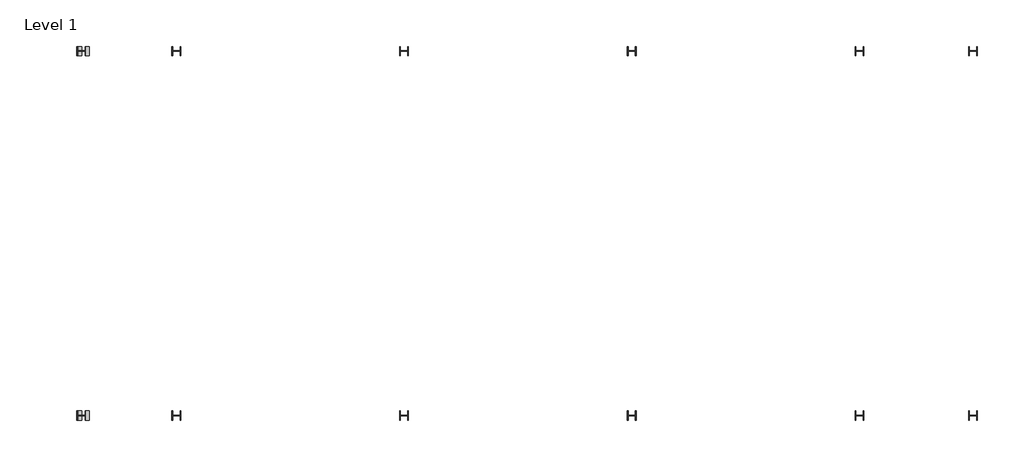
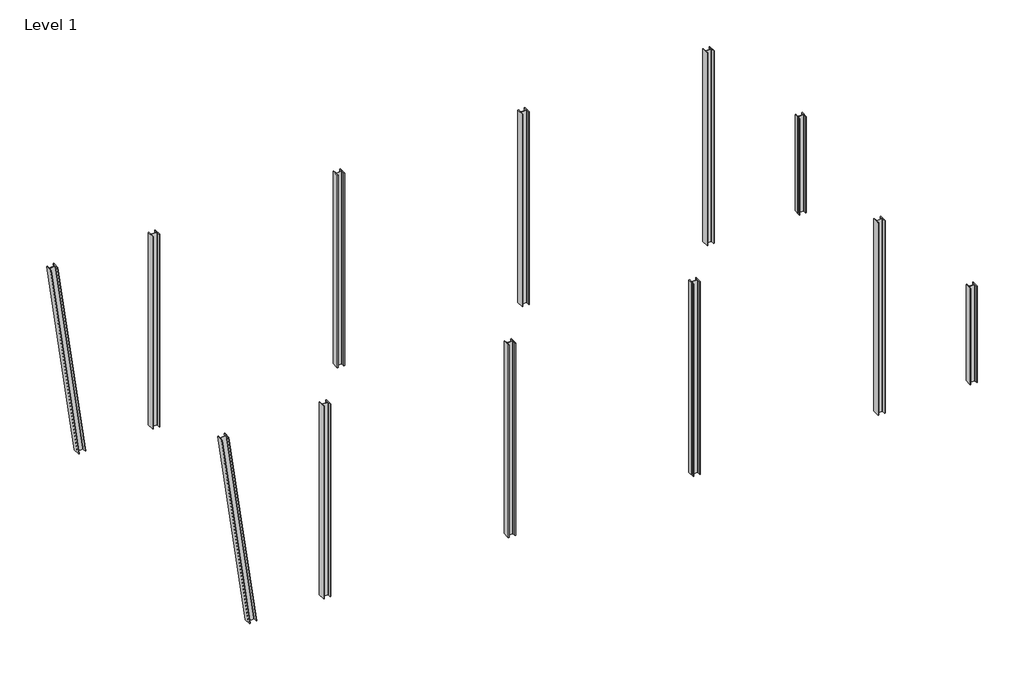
# One storey: 12 columns.
"""IFC4 building model written with IfcOpenShell, lengths in millimetres."""

from ifc_helpers import new_model, si_unit, point, frame, frame_2d, origin, origin_with_axes, place, context, project, spatial, polyline, circle_curve, trimmed, segment, composite_curve, outline, extrude, element, save

model = new_model("IFC4")

# Units and contexts
model_context = context("Model", 3, world=origin())
ifc_project = project(units=[si_unit("LENGTHUNIT", "METRE", prefix="MILLI")], contexts=[model_context])

# Site, building, storey
site = spatial("IfcSite", under=ifc_project)
building = spatial("IfcBuilding", under=site)
storey = spatial("IfcBuildingStorey", under=building, Name="Level 1", Elevation=0.0)

# Columns
placement = place(None, origin())
element("IfcColumn", 1, ObjectType="W Shapes-Column : W14X176", at=placement, inside=storey, context=model_context, shape_type="SweptSolid", body=[
    extrude(outline(composite_curve([segment(polyline([(398.7799999, 0.0), (398.78, -33.274), (225.171, -33.274)]), True, "CONTINUOUS"), segment(trimmed(circle_curve(frame_2d((225.171, -48.5140001)), 15.24), [point((225.171, -33.274))], [point((209.931, -48.514))], True, "CARTESIAN"), True, "CONTINUOUS"), segment(polyline([(209.931, -48.514), (209.9309999, -337.566)]), True, "CONTINUOUS"), segment(trimmed(circle_curve(frame_2d((225.1709999, -337.566)), 15.24), [point((209.9309999, -337.566))], [point((225.1709999, -352.8060001))], True, "CARTESIAN"), True, "CONTINUOUS"), segment(polyline([(225.1709999, -352.8060001), (398.78, -352.8060001), (398.7799999, -386.0800001), (0.0, -386.08), (-1e-07, -352.806), (173.6089999, -352.8060001)]), True, "CONTINUOUS"), segment(trimmed(circle_curve(frame_2d((173.6089999, -337.566)), 15.24), [point((173.6089999, -352.8060001))], [point((188.8489999, -337.566))], True, "CARTESIAN"), True, "CONTINUOUS"), segment(polyline([(188.8489999, -337.566), (188.849, -48.5140001)]), True, "CONTINUOUS"), segment(trimmed(circle_curve(frame_2d((173.609, -48.514)), 15.24), [point((188.849, -48.5140001))], [point((173.609, -33.274))], True, "CARTESIAN"), True, "CONTINUOUS"), segment(polyline([(173.609, -33.274), (0.0, -33.274), (0.0, 0.0), (398.7799999, 0.0)]), True, "CONTINUOUS")], self_intersect=False)), frame((2443.7315957, 1165.6085819, -26.0820551), z_axis=(-0.13511320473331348, 0.0, 0.990830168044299), x_axis=(-7.279044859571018e-06, 0.9999999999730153, -9.925970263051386e-07)), (0.0, 0.0, 1.0), 11101.8016556),
])
element("IfcColumn", 2, ObjectType="W Shapes-Column : W14X176", at=placement, inside=storey, context=model_context, shape_type="SweptSolid", body=[
    extrude(outline(composite_curve([segment(polyline([(6441.9592676, 1564.3892909), (6475.2332676, 1564.3894131), (6475.2339053, 1390.7804131)]), True, "CONTINUOUS"), segment(trimmed(circle_curve(frame_2d((6490.4739053, 1390.7804691)), 15.24), [point((6475.2339053, 1390.7804131))], [point((6490.4739613, 1375.5404691))], True, "CARTESIAN"), True, "CONTINUOUS"), segment(polyline([(6490.4739613, 1375.5404691), (6779.5259613, 1375.5415309)]), True, "CONTINUOUS"), segment(trimmed(circle_curve(frame_2d((6779.5259053, 1390.7815309)), 15.24), [point((6779.5259613, 1375.5415309))], [point((6794.7659053, 1390.7815869))], True, "CARTESIAN"), True, "CONTINUOUS"), segment(polyline([(6794.7659053, 1390.7815869), (6794.7652676, 1564.3905869), (6828.0392676, 1564.3907091), (6828.0407324, 1165.6107091), (6794.7667324, 1165.6105869), (6794.7660947, 1339.2195869)]), True, "CONTINUOUS"), segment(trimmed(circle_curve(frame_2d((6779.5260947, 1339.2195309)), 15.24), [point((6794.7660947, 1339.2195869))], [point((6779.5260387, 1354.4595309))], True, "CARTESIAN"), True, "CONTINUOUS"), segment(polyline([(6779.5260387, 1354.4595309), (6490.4740387, 1354.4584691)]), True, "CONTINUOUS"), segment(trimmed(circle_curve(frame_2d((6490.4740947, 1339.2184691)), 15.24), [point((6490.4740387, 1354.4584691))], [point((6475.2340947, 1339.2184131))], True, "CARTESIAN"), True, "CONTINUOUS"), segment(polyline([(6475.2340947, 1339.2184131), (6475.2347324, 1165.6094131), (6441.9607324, 1165.6092909), (6441.9592676, 1564.3892909)]), True, "CONTINUOUS")], self_intersect=False)), origin_with_axes(), (0.0, 0.0, 1.0), 11000.0),
])
element("IfcColumn", 3, ObjectType="W Shapes-Column : W14X176", at=placement, inside=storey, context=model_context, shape_type="SweptSolid", body=[
    extrude(outline(composite_curve([segment(polyline([(16424.1592676, -14435.6107091), (16457.4332676, -14435.6105869), (16457.4339053, -14609.2195869)]), True, "CONTINUOUS"), segment(trimmed(circle_curve(frame_2d((16472.6739053, -14609.2195309)), 15.24), [point((16457.4339053, -14609.2195869))], [point((16472.6739613, -14624.4595309))], True, "CARTESIAN"), True, "CONTINUOUS"), segment(polyline([(16472.6739613, -14624.4595309), (16761.7259613, -14624.4584691)]), True, "CONTINUOUS"), segment(trimmed(circle_curve(frame_2d((16761.7259053, -14609.2184691)), 15.24), [point((16761.7259613, -14624.4584691))], [point((16776.9659053, -14609.2184131))], True, "CARTESIAN"), True, "CONTINUOUS"), segment(polyline([(16776.9659053, -14609.2184131), (16776.9652676, -14435.6094131), (16810.2392676, -14435.6092909), (16810.2407324, -14834.3892909), (16776.9667324, -14834.3894131), (16776.9660947, -14660.7804131)]), True, "CONTINUOUS"), segment(trimmed(circle_curve(frame_2d((16761.7260947, -14660.7804691)), 15.24), [point((16776.9660947, -14660.7804131))], [point((16761.7260387, -14645.5404691))], True, "CARTESIAN"), True, "CONTINUOUS"), segment(polyline([(16761.7260387, -14645.5404691), (16472.6740387, -14645.5415309)]), True, "CONTINUOUS"), segment(trimmed(circle_curve(frame_2d((16472.6740947, -14660.7815309)), 15.24), [point((16472.6740387, -14645.5415309))], [point((16457.4340947, -14660.7815869))], True, "CARTESIAN"), True, "CONTINUOUS"), segment(polyline([(16457.4340947, -14660.7815869), (16457.4347324, -14834.3905869), (16424.1607324, -14834.3907091), (16424.1592676, -14435.6107091)]), True, "CONTINUOUS")], self_intersect=False)), origin_with_axes(), (0.0, 0.0, 1.0), 11000.0),
])
element("IfcColumn", 4, ObjectType="W Shapes-Column : W14X176", at=placement, inside=storey, context=model_context, shape_type="SweptSolid", body=[
    extrude(outline(composite_curve([segment(polyline([(16424.1592676, 1564.3892909), (16457.4332676, 1564.3894131), (16457.4339053, 1390.7804131)]), True, "CONTINUOUS"), segment(trimmed(circle_curve(frame_2d((16472.6739053, 1390.7804691)), 15.24), [point((16457.4339053, 1390.7804131))], [point((16472.6739613, 1375.5404691))], True, "CARTESIAN"), True, "CONTINUOUS"), segment(polyline([(16472.6739613, 1375.5404691), (16761.7259613, 1375.5415309)]), True, "CONTINUOUS"), segment(trimmed(circle_curve(frame_2d((16761.7259053, 1390.7815309)), 15.24), [point((16761.7259613, 1375.5415309))], [point((16776.9659053, 1390.7815869))], True, "CARTESIAN"), True, "CONTINUOUS"), segment(polyline([(16776.9659053, 1390.7815869), (16776.9652676, 1564.3905869), (16810.2392676, 1564.3907091), (16810.2407324, 1165.6107091), (16776.9667324, 1165.6105869), (16776.9660947, 1339.2195869)]), True, "CONTINUOUS"), segment(trimmed(circle_curve(frame_2d((16761.7260947, 1339.2195309)), 15.24), [point((16776.9660947, 1339.2195869))], [point((16761.7260387, 1354.4595309))], True, "CARTESIAN"), True, "CONTINUOUS"), segment(polyline([(16761.7260387, 1354.4595309), (16472.6740387, 1354.4584691)]), True, "CONTINUOUS"), segment(trimmed(circle_curve(frame_2d((16472.6740947, 1339.2184691)), 15.24), [point((16472.6740387, 1354.4584691))], [point((16457.4340947, 1339.2184131))], True, "CARTESIAN"), True, "CONTINUOUS"), segment(polyline([(16457.4340947, 1339.2184131), (16457.4347324, 1165.6094131), (16424.1607324, 1165.6092909), (16424.1592676, 1564.3892909)]), True, "CONTINUOUS")], self_intersect=False)), origin_with_axes(), (0.0, 0.0, 1.0), 11000.0),
])
element("IfcColumn", 5, ObjectType="W Shapes-Column : W14X176", at=placement, inside=storey, context=model_context, shape_type="SweptSolid", body=[
    extrude(outline(composite_curve([segment(polyline([(26406.3592676, -14435.6107091), (26439.6332676, -14435.6105869), (26439.6339053, -14609.2195869)]), True, "CONTINUOUS"), segment(trimmed(circle_curve(frame_2d((26454.8739053, -14609.2195309)), 15.24), [point((26439.6339053, -14609.2195869))], [point((26454.8739613, -14624.4595309))], True, "CARTESIAN"), True, "CONTINUOUS"), segment(polyline([(26454.8739613, -14624.4595309), (26743.9259613, -14624.4584691)]), True, "CONTINUOUS"), segment(trimmed(circle_curve(frame_2d((26743.9259053, -14609.2184691)), 15.24), [point((26743.9259613, -14624.4584691))], [point((26759.1659053, -14609.2184131))], True, "CARTESIAN"), True, "CONTINUOUS"), segment(polyline([(26759.1659053, -14609.2184131), (26759.1652676, -14435.6094131), (26792.4392676, -14435.6092909), (26792.4407324, -14834.3892909), (26759.1667324, -14834.3894131), (26759.1660947, -14660.7804131)]), True, "CONTINUOUS"), segment(trimmed(circle_curve(frame_2d((26743.9260947, -14660.7804691)), 15.24), [point((26759.1660947, -14660.7804131))], [point((26743.9260387, -14645.5404691))], True, "CARTESIAN"), True, "CONTINUOUS"), segment(polyline([(26743.9260387, -14645.5404691), (26454.8740387, -14645.5415309)]), True, "CONTINUOUS"), segment(trimmed(circle_curve(frame_2d((26454.8740947, -14660.7815309)), 15.24), [point((26454.8740387, -14645.5415309))], [point((26439.6340947, -14660.7815869))], True, "CARTESIAN"), True, "CONTINUOUS"), segment(polyline([(26439.6340947, -14660.7815869), (26439.6347324, -14834.3905869), (26406.3607324, -14834.3907091), (26406.3592676, -14435.6107091)]), True, "CONTINUOUS")], self_intersect=False)), origin_with_axes(), (0.0, 0.0, 1.0), 11000.0),
])
element("IfcColumn", 6, ObjectType="W Shapes-Column : W14X176", at=placement, inside=storey, context=model_context, shape_type="SweptSolid", body=[
    extrude(outline(composite_curve([segment(polyline([(26406.3592676, 1564.3892909), (26439.6332676, 1564.3894131), (26439.6339053, 1390.7804131)]), True, "CONTINUOUS"), segment(trimmed(circle_curve(frame_2d((26454.8739053, 1390.7804691)), 15.24), [point((26439.6339053, 1390.7804131))], [point((26454.8739613, 1375.5404691))], True, "CARTESIAN"), True, "CONTINUOUS"), segment(polyline([(26454.8739613, 1375.5404691), (26743.9259613, 1375.5415309)]), True, "CONTINUOUS"), segment(trimmed(circle_curve(frame_2d((26743.9259053, 1390.7815309)), 15.24), [point((26743.9259613, 1375.5415309))], [point((26759.1659053, 1390.7815869))], True, "CARTESIAN"), True, "CONTINUOUS"), segment(polyline([(26759.1659053, 1390.7815869), (26759.1652676, 1564.3905869), (26792.4392676, 1564.3907091), (26792.4407324, 1165.6107091), (26759.1667324, 1165.6105869), (26759.1660947, 1339.2195869)]), True, "CONTINUOUS"), segment(trimmed(circle_curve(frame_2d((26743.9260947, 1339.2195309)), 15.24), [point((26759.1660947, 1339.2195869))], [point((26743.9260387, 1354.4595309))], True, "CARTESIAN"), True, "CONTINUOUS"), segment(polyline([(26743.9260387, 1354.4595309), (26454.8740387, 1354.4584691)]), True, "CONTINUOUS"), segment(trimmed(circle_curve(frame_2d((26454.8740947, 1339.2184691)), 15.24), [point((26454.8740387, 1354.4584691))], [point((26439.6340947, 1339.2184131))], True, "CARTESIAN"), True, "CONTINUOUS"), segment(polyline([(26439.6340947, 1339.2184131), (26439.6347324, 1165.6094131), (26406.3607324, 1165.6092909), (26406.3592676, 1564.3892909)]), True, "CONTINUOUS")], self_intersect=False)), origin_with_axes(), (0.0, 0.0, 1.0), 11000.0),
])
element("IfcColumn", 7, ObjectType="W Shapes-Column : W14X176", at=placement, inside=storey, context=model_context, shape_type="SweptSolid", body=[
    extrude(outline(composite_curve([segment(polyline([(36388.5592676, -14435.6107091), (36421.8332676, -14435.6105869), (36421.8339053, -14609.2195869)]), True, "CONTINUOUS"), segment(trimmed(circle_curve(frame_2d((36437.0739053, -14609.2195309)), 15.24), [point((36421.8339053, -14609.2195869))], [point((36437.0739613, -14624.4595309))], True, "CARTESIAN"), True, "CONTINUOUS"), segment(polyline([(36437.0739613, -14624.4595309), (36726.1259613, -14624.4584691)]), True, "CONTINUOUS"), segment(trimmed(circle_curve(frame_2d((36726.1259053, -14609.2184691)), 15.24), [point((36726.1259613, -14624.4584691))], [point((36741.3659053, -14609.2184131))], True, "CARTESIAN"), True, "CONTINUOUS"), segment(polyline([(36741.3659053, -14609.2184131), (36741.3652676, -14435.6094131), (36774.6392676, -14435.6092909), (36774.6407324, -14834.3892909), (36741.3667324, -14834.3894131), (36741.3660947, -14660.7804131)]), True, "CONTINUOUS"), segment(trimmed(circle_curve(frame_2d((36726.1260947, -14660.7804691)), 15.24), [point((36741.3660947, -14660.7804131))], [point((36726.1260387, -14645.5404691))], True, "CARTESIAN"), True, "CONTINUOUS"), segment(polyline([(36726.1260387, -14645.5404691), (36437.0740387, -14645.5415309)]), True, "CONTINUOUS"), segment(trimmed(circle_curve(frame_2d((36437.0740947, -14660.7815309)), 15.24), [point((36437.0740387, -14645.5415309))], [point((36421.8340947, -14660.7815869))], True, "CARTESIAN"), True, "CONTINUOUS"), segment(polyline([(36421.8340947, -14660.7815869), (36421.8347324, -14834.3905869), (36388.5607324, -14834.3907091), (36388.5592676, -14435.6107091)]), True, "CONTINUOUS")], self_intersect=False)), origin_with_axes(), (0.0, 0.0, 1.0), 11000.0),
])
element("IfcColumn", 8, ObjectType="W Shapes-Column : W14X176", at=placement, inside=storey, context=model_context, shape_type="SweptSolid", body=[
    extrude(outline(composite_curve([segment(polyline([(36388.5592676, 1564.3892909), (36421.8332676, 1564.3894131), (36421.8339053, 1390.7804131)]), True, "CONTINUOUS"), segment(trimmed(circle_curve(frame_2d((36437.0739053, 1390.7804691)), 15.24), [point((36421.8339053, 1390.7804131))], [point((36437.0739613, 1375.5404691))], True, "CARTESIAN"), True, "CONTINUOUS"), segment(polyline([(36437.0739613, 1375.5404691), (36726.1259613, 1375.5415309)]), True, "CONTINUOUS"), segment(trimmed(circle_curve(frame_2d((36726.1259053, 1390.7815309)), 15.24), [point((36726.1259613, 1375.5415309))], [point((36741.3659053, 1390.7815869))], True, "CARTESIAN"), True, "CONTINUOUS"), segment(polyline([(36741.3659053, 1390.7815869), (36741.3652676, 1564.3905869), (36774.6392676, 1564.3907091), (36774.6407324, 1165.6107091), (36741.3667324, 1165.6105869), (36741.3660947, 1339.2195869)]), True, "CONTINUOUS"), segment(trimmed(circle_curve(frame_2d((36726.1260947, 1339.2195309)), 15.24), [point((36741.3660947, 1339.2195869))], [point((36726.1260387, 1354.4595309))], True, "CARTESIAN"), True, "CONTINUOUS"), segment(polyline([(36726.1260387, 1354.4595309), (36437.0740387, 1354.4584691)]), True, "CONTINUOUS"), segment(trimmed(circle_curve(frame_2d((36437.0740947, 1339.2184691)), 15.24), [point((36437.0740387, 1354.4584691))], [point((36421.8340947, 1339.2184131))], True, "CARTESIAN"), True, "CONTINUOUS"), segment(polyline([(36421.8340947, 1339.2184131), (36421.8347324, 1165.6094131), (36388.5607324, 1165.6092909), (36388.5592676, 1564.3892909)]), True, "CONTINUOUS")], self_intersect=False)), origin_with_axes(), (0.0, 0.0, 1.0), 11000.0),
])
element("IfcColumn", 9, ObjectType="W Shapes-Column : W14X176", at=placement, inside=storey, context=model_context, shape_type="SweptSolid", body=[
    extrude(outline(composite_curve([segment(polyline([(41370.7592676, -14435.6107091), (41404.0332676, -14435.6105869), (41404.0339053, -14609.2195869)]), True, "CONTINUOUS"), segment(trimmed(circle_curve(frame_2d((41419.2739053, -14609.2195309)), 15.24), [point((41404.0339053, -14609.2195869))], [point((41419.2739613, -14624.4595309))], True, "CARTESIAN"), True, "CONTINUOUS"), segment(polyline([(41419.2739613, -14624.4595309), (41708.3259613, -14624.4584691)]), True, "CONTINUOUS"), segment(trimmed(circle_curve(frame_2d((41708.3259053, -14609.2184691)), 15.24), [point((41708.3259613, -14624.4584691))], [point((41723.5659053, -14609.2184131))], True, "CARTESIAN"), True, "CONTINUOUS"), segment(polyline([(41723.5659053, -14609.2184131), (41723.5652676, -14435.6094131), (41756.8392676, -14435.6092909), (41756.8407324, -14834.3892909), (41723.5667324, -14834.3894131), (41723.5660947, -14660.7804131)]), True, "CONTINUOUS"), segment(trimmed(circle_curve(frame_2d((41708.3260947, -14660.7804691)), 15.24), [point((41723.5660947, -14660.7804131))], [point((41708.3260387, -14645.5404691))], True, "CARTESIAN"), True, "CONTINUOUS"), segment(polyline([(41708.3260387, -14645.5404691), (41419.2740387, -14645.5415309)]), True, "CONTINUOUS"), segment(trimmed(circle_curve(frame_2d((41419.2740947, -14660.7815309)), 15.24), [point((41419.2740387, -14645.5415309))], [point((41404.0340947, -14660.7815869))], True, "CARTESIAN"), True, "CONTINUOUS"), segment(polyline([(41404.0340947, -14660.7815869), (41404.0347324, -14834.3905869), (41370.7607324, -14834.3907091), (41370.7592676, -14435.6107091)]), True, "CONTINUOUS")], self_intersect=False)), origin_with_axes(), (0.0, 0.0, 1.0), 5500.0),
])
element("IfcColumn", 10, ObjectType="W Shapes-Column : W14X176", at=placement, inside=storey, context=model_context, shape_type="SweptSolid", body=[
    extrude(outline(composite_curve([segment(polyline([(41370.7592676, 1564.3892909), (41404.0332676, 1564.3894131), (41404.0339053, 1390.7804131)]), True, "CONTINUOUS"), segment(trimmed(circle_curve(frame_2d((41419.2739053, 1390.7804691)), 15.24), [point((41404.0339053, 1390.7804131))], [point((41419.2739613, 1375.5404691))], True, "CARTESIAN"), True, "CONTINUOUS"), segment(polyline([(41419.2739613, 1375.5404691), (41708.3259613, 1375.5415309)]), True, "CONTINUOUS"), segment(trimmed(circle_curve(frame_2d((41708.3259053, 1390.7815309)), 15.24), [point((41708.3259613, 1375.5415309))], [point((41723.5659053, 1390.7815869))], True, "CARTESIAN"), True, "CONTINUOUS"), segment(polyline([(41723.5659053, 1390.7815869), (41723.5652676, 1564.3905869), (41756.8392676, 1564.3907091), (41756.8407324, 1165.6107091), (41723.5667324, 1165.6105869), (41723.5660947, 1339.2195869)]), True, "CONTINUOUS"), segment(trimmed(circle_curve(frame_2d((41708.3260947, 1339.2195309)), 15.24), [point((41723.5660947, 1339.2195869))], [point((41708.3260387, 1354.4595309))], True, "CARTESIAN"), True, "CONTINUOUS"), segment(polyline([(41708.3260387, 1354.4595309), (41419.2740387, 1354.4584691)]), True, "CONTINUOUS"), segment(trimmed(circle_curve(frame_2d((41419.2740947, 1339.2184691)), 15.24), [point((41419.2740387, 1354.4584691))], [point((41404.0340947, 1339.2184131))], True, "CARTESIAN"), True, "CONTINUOUS"), segment(polyline([(41404.0340947, 1339.2184131), (41404.0347324, 1165.6094131), (41370.7607324, 1165.6092909), (41370.7592676, 1564.3892909)]), True, "CONTINUOUS")], self_intersect=False)), origin_with_axes(), (0.0, 0.0, 1.0), 5500.0),
])
element("IfcColumn", 11, ObjectType="W Shapes-Column : W14X176", at=placement, inside=storey, context=model_context, shape_type="SweptSolid", body=[
    extrude(outline(composite_curve([segment(polyline([(398.7799999, 0.0), (398.78, -33.274), (225.171, -33.274)]), True, "CONTINUOUS"), segment(trimmed(circle_curve(frame_2d((225.171, -48.5140001)), 15.24), [point((225.171, -33.274))], [point((209.931, -48.514))], True, "CARTESIAN"), True, "CONTINUOUS"), segment(polyline([(209.931, -48.514), (209.9309999, -337.566)]), True, "CONTINUOUS"), segment(trimmed(circle_curve(frame_2d((225.1709999, -337.566)), 15.24), [point((209.9309999, -337.566))], [point((225.1709999, -352.8060001))], True, "CARTESIAN"), True, "CONTINUOUS"), segment(polyline([(225.1709999, -352.8060001), (398.78, -352.8060001), (398.7799999, -386.0800001), (0.0, -386.08), (-1e-07, -352.806), (173.6089999, -352.8060001)]), True, "CONTINUOUS"), segment(trimmed(circle_curve(frame_2d((173.6089999, -337.566)), 15.24), [point((173.6089999, -352.8060001))], [point((188.8489999, -337.566))], True, "CARTESIAN"), True, "CONTINUOUS"), segment(polyline([(188.8489999, -337.566), (188.849, -48.5140001)]), True, "CONTINUOUS"), segment(trimmed(circle_curve(frame_2d((173.609, -48.514)), 15.24), [point((188.849, -48.5140001))], [point((173.609, -33.274))], True, "CARTESIAN"), True, "CONTINUOUS"), segment(polyline([(173.609, -33.274), (0.0, -33.274), (0.0, 0.0), (398.7799999, 0.0)]), True, "CONTINUOUS")], self_intersect=False)), frame((2443.7315957, -14834.3914181, -26.0820551), z_axis=(-0.13511320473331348, 0.0, 0.990830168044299), x_axis=(-7.279044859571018e-06, 0.9999999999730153, -9.925970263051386e-07)), (0.0, 0.0, 1.0), 11101.8016556),
])
element("IfcColumn", 12, ObjectType="W Shapes-Column : W14X176", at=placement, inside=storey, context=model_context, shape_type="SweptSolid", body=[
    extrude(outline(composite_curve([segment(polyline([(6441.9592676, -14435.6107091), (6475.2332676, -14435.6105869), (6475.2339053, -14609.2195869)]), True, "CONTINUOUS"), segment(trimmed(circle_curve(frame_2d((6490.4739053, -14609.2195309)), 15.24), [point((6475.2339053, -14609.2195869))], [point((6490.4739613, -14624.4595309))], True, "CARTESIAN"), True, "CONTINUOUS"), segment(polyline([(6490.4739613, -14624.4595309), (6779.5259613, -14624.4584691)]), True, "CONTINUOUS"), segment(trimmed(circle_curve(frame_2d((6779.5259053, -14609.2184691)), 15.24), [point((6779.5259613, -14624.4584691))], [point((6794.7659053, -14609.2184131))], True, "CARTESIAN"), True, "CONTINUOUS"), segment(polyline([(6794.7659053, -14609.2184131), (6794.7652676, -14435.6094131), (6828.0392676, -14435.6092909), (6828.0407324, -14834.3892909), (6794.7667324, -14834.3894131), (6794.7660947, -14660.7804131)]), True, "CONTINUOUS"), segment(trimmed(circle_curve(frame_2d((6779.5260947, -14660.7804691)), 15.24), [point((6794.7660947, -14660.7804131))], [point((6779.5260387, -14645.5404691))], True, "CARTESIAN"), True, "CONTINUOUS"), segment(polyline([(6779.5260387, -14645.5404691), (6490.4740387, -14645.5415309)]), True, "CONTINUOUS"), segment(trimmed(circle_curve(frame_2d((6490.4740947, -14660.7815309)), 15.24), [point((6490.4740387, -14645.5415309))], [point((6475.2340947, -14660.7815869))], True, "CARTESIAN"), True, "CONTINUOUS"), segment(polyline([(6475.2340947, -14660.7815869), (6475.2347324, -14834.3905869), (6441.9607324, -14834.3907091), (6441.9592676, -14435.6107091)]), True, "CONTINUOUS")], self_intersect=False)), origin_with_axes(), (0.0, 0.0, 1.0), 11000.0),
])

save(model, "model.ifc")
